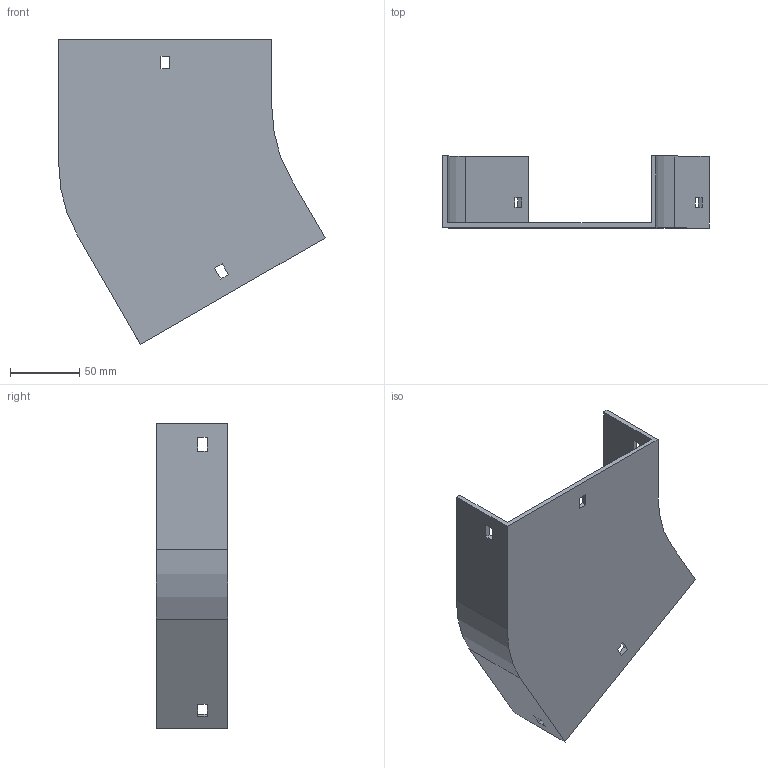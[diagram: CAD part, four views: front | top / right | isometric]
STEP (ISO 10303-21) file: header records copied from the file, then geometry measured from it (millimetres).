
FILE_DESCRIPTION (( 'STEP AP214' ), '1' );
FILE_NAME ('12B1B150.step', '2025-02-21T09:34:25', ( '' ), ( '' ), 'SwSTEP 2.0', 'SolidWorks 2023', '' );
FILE_SCHEMA (( 'AUTOMOTIVE_DESIGN' ));
Length unit declared in the file: millimetre
Products named in the file (1): 12B1B150
Bounding box: 192.4 x 52 x 220.3 mm (x, y, z)
Volume: 169372.2 mm3; surface area: 100589.5 mm2
Topology: 1 solids, 1 shells, 42 faces, 120 edges, 80 vertices
Faces by surface type: plane 38, cylinder 4
Entity records: 1399 total; most frequent: CARTESIAN_POINT 243, ORIENTED_EDGE 240, DIRECTION 214, EDGE_CURVE 120, VECTOR 112, LINE 112, VERTEX_POINT 80, EDGE_LOOP 54
